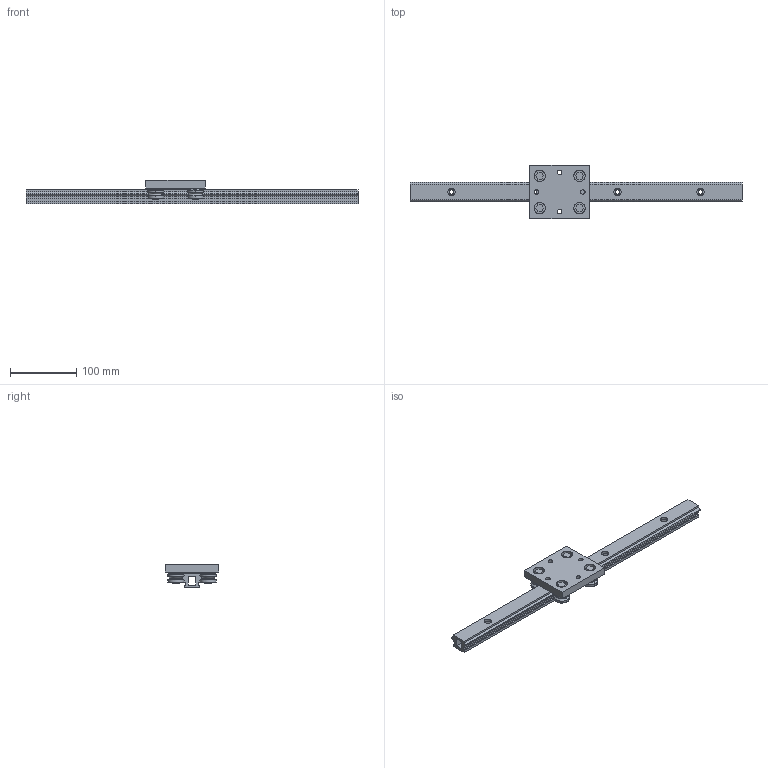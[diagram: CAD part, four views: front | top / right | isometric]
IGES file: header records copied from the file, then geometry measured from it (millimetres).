
Global section: file name: No Iges File Name specified; native system: AutoDesk Inventor R10; preprocessor: AutoDesk Inventor Iges Exporter R10; author: No Author specified; organization: No Organization specified; date: 20101224.114433; units: millimetre
Bounding box: 500 x 80 x 35.5 mm (x, y, z)
Surface area: 103304.3 mm2 (no closed solid volume)
Topology: 0 solids, 0 shells, 182 faces, 1176 edges, 1176 vertices
Faces by surface type: bspline 182
